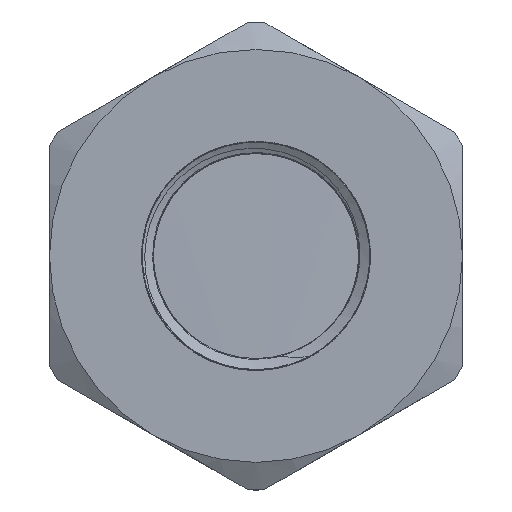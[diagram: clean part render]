
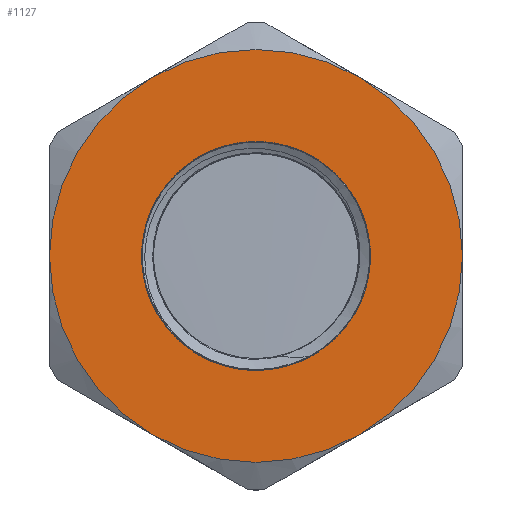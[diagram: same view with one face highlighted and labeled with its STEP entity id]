
A CAD part, top view. The second image highlights one B-rep face of the part: STEP entity #1127.
In plain terms, the highlighted planar face has unit normal (0, 0, 1).
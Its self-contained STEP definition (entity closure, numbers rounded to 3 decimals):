
#110=FACE_BOUND('',#340,.T.);
#124=PLANE('',#1240);
#270=FACE_OUTER_BOUND('',#339,.T.);
#339=EDGE_LOOP('',(#831,#832,#833,#834,#835,#836));
#340=EDGE_LOOP('',(#837,#838));
#395=CIRCLE('',#1199,30.);
#397=CIRCLE('',#1202,30.);
#399=CIRCLE('',#1205,30.);
#400=CIRCLE('',#1207,30.);
#402=CIRCLE('',#1210,30.);
#404=CIRCLE('',#1213,30.);
#417=CIRCLE('',#1241,16.62);
#418=CIRCLE('',#1242,16.62);
#451=VERTEX_POINT('',#1545);
#453=VERTEX_POINT('',#1551);
#455=VERTEX_POINT('',#1558);
#458=VERTEX_POINT('',#1570);
#461=VERTEX_POINT('',#1585);
#464=VERTEX_POINT('',#1597);
#485=VERTEX_POINT('',#1677);
#486=VERTEX_POINT('',#1678);
#570=EDGE_CURVE('',#451,#453,#395,.T.);
#574=EDGE_CURVE('',#455,#451,#397,.T.);
#578=EDGE_CURVE('',#458,#455,#399,.T.);
#580=EDGE_CURVE('',#461,#458,#400,.T.);
#584=EDGE_CURVE('',#464,#461,#402,.T.);
#588=EDGE_CURVE('',#453,#464,#404,.T.);
#621=EDGE_CURVE('',#485,#486,#417,.T.);
#622=EDGE_CURVE('',#486,#485,#418,.T.);
#831=ORIENTED_EDGE('',*,*,#588,.T.);
#832=ORIENTED_EDGE('',*,*,#584,.T.);
#833=ORIENTED_EDGE('',*,*,#580,.T.);
#834=ORIENTED_EDGE('',*,*,#578,.T.);
#835=ORIENTED_EDGE('',*,*,#574,.T.);
#836=ORIENTED_EDGE('',*,*,#570,.T.);
#837=ORIENTED_EDGE('',*,*,#621,.F.);
#838=ORIENTED_EDGE('',*,*,#622,.F.);
#1127=ADVANCED_FACE('',(#270,#110),#124,.T.);
#1199=AXIS2_PLACEMENT_3D('',#1555,#1303,#1304);
#1202=AXIS2_PLACEMENT_3D('',#1567,#1309,#1310);
#1205=AXIS2_PLACEMENT_3D('',#1579,#1315,#1316);
#1207=AXIS2_PLACEMENT_3D('',#1586,#1319,#1320);
#1210=AXIS2_PLACEMENT_3D('',#1598,#1325,#1326);
#1213=AXIS2_PLACEMENT_3D('',#1609,#1331,#1332);
#1240=AXIS2_PLACEMENT_3D('',#1676,#1404,#1405);
#1241=AXIS2_PLACEMENT_3D('',#1679,#1406,#1407);
#1242=AXIS2_PLACEMENT_3D('',#1680,#1408,#1409);
#1303=DIRECTION('center_axis',(0.,0.,1.));
#1304=DIRECTION('ref_axis',(0.,1.,0.));
#1309=DIRECTION('center_axis',(0.,0.,1.));
#1310=DIRECTION('ref_axis',(0.,1.,0.));
#1315=DIRECTION('center_axis',(0.,0.,1.));
#1316=DIRECTION('ref_axis',(0.,1.,0.));
#1319=DIRECTION('center_axis',(0.,0.,1.));
#1320=DIRECTION('ref_axis',(0.,1.,0.));
#1325=DIRECTION('center_axis',(0.,0.,1.));
#1326=DIRECTION('ref_axis',(0.,1.,0.));
#1331=DIRECTION('center_axis',(0.,0.,1.));
#1332=DIRECTION('ref_axis',(0.,1.,0.));
#1404=DIRECTION('center_axis',(0.,0.,1.));
#1405=DIRECTION('ref_axis',(1.,0.,0.));
#1406=DIRECTION('center_axis',(0.,0.,1.));
#1407=DIRECTION('ref_axis',(1.,0.,0.));
#1408=DIRECTION('center_axis',(0.,0.,1.));
#1409=DIRECTION('ref_axis',(1.,0.,0.));
#1545=CARTESIAN_POINT('',(15.,25.981,24.3));
#1551=CARTESIAN_POINT('',(-15.,25.981,24.3));
#1555=CARTESIAN_POINT('Origin',(0.,0.,24.3));
#1558=CARTESIAN_POINT('',(30.,0.,24.3));
#1567=CARTESIAN_POINT('Origin',(0.,0.,24.3));
#1570=CARTESIAN_POINT('',(15.,-25.981,24.3));
#1579=CARTESIAN_POINT('Origin',(0.,0.,24.3));
#1585=CARTESIAN_POINT('',(-15.,-25.981,24.3));
#1586=CARTESIAN_POINT('Origin',(0.,0.,24.3));
#1597=CARTESIAN_POINT('',(-30.,0.,24.3));
#1598=CARTESIAN_POINT('Origin',(0.,0.,24.3));
#1609=CARTESIAN_POINT('Origin',(0.,0.,24.3));
#1676=CARTESIAN_POINT('Origin',(0.,-16.62,24.3));
#1677=CARTESIAN_POINT('',(0.,-16.62,24.3));
#1678=CARTESIAN_POINT('',(0.,16.62,24.3));
#1679=CARTESIAN_POINT('Origin',(0.,0.,24.3));
#1680=CARTESIAN_POINT('Origin',(0.,0.,24.3));
